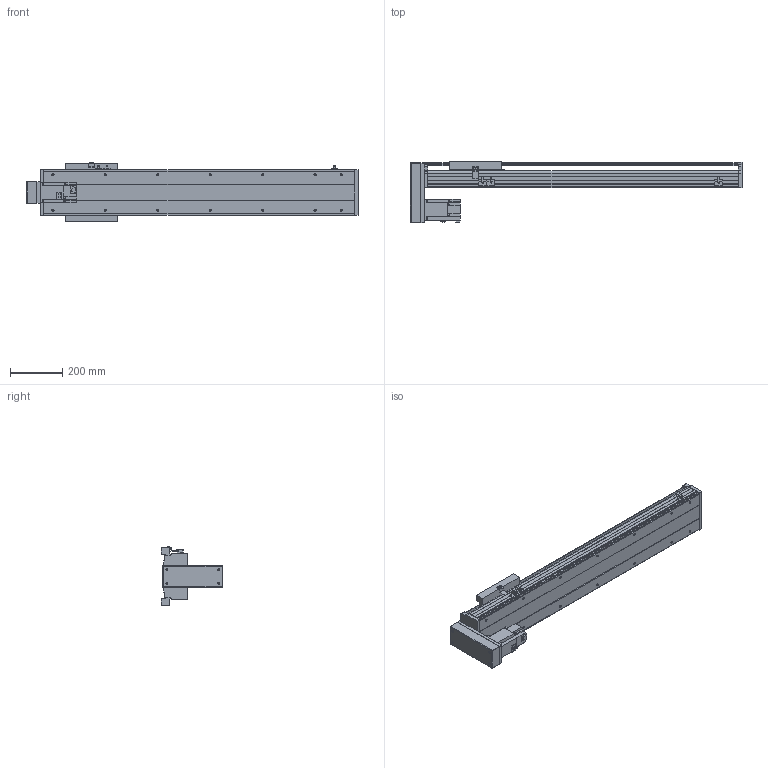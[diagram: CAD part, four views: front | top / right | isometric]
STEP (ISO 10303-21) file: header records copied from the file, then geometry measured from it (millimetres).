
FILE_DESCRIPTION( ( 'STEP AP214' ), '1' );
FILE_NAME( 'x:/temp/worker_27/temp/exporttempdir_6708_426_BjQ87/format_0/PSS200-L10-S850-BM-T75-C1-N(0).stp', '2022-06-06T02:45:01', ( 'License CC BY-ND 4.0' ), ( 'CADENAS' ), ' ', 'PARTsolutions', ' ' );
FILE_SCHEMA( ( 'AUTOMOTIVE_DESIGN { 1 0 10303 214 1 1 1 1 }' ) );
Length unit declared in the file: millimetre
Products named in the file (8): PSS200-L10-S850-BM-T75-C1-N(0); _PSS200-S850-BM-C1-N_body; _PSS200-N_Q; _PSS200-BM-C1-N_sl; _PSS200-N_sensor; _PSS200BM-N_h; _T75-p1; _PSS200-S850-BM-N_S
Assembly tree (9 placements, depth 2):
  PSS200-L10-S850-BM-T75-C1-N(0)
    _PSS200-S850-BM-C1-N_body
    _PSS200-N_Q
    _PSS200-BM-C1-N_sl
    _PSS200-N_sensor  x3
    _PSS200BM-N_h
    _T75-p1
    _PSS200-S850-BM-N_S
Bounding box: 1266.85 x 234.45 x 223.86 mm (x, y, z)
Volume: 8583964.5 mm3; surface area: 2016443 mm2
Topology: 9 solids, 9 shells, 602 faces, 1613 edges, 1070 vertices
Faces by surface type: plane 452, cylinder 124, cone 22, sphere 4
Full cylindrical faces by diameter (mm): 4 x2, 4.5 x4, 6 x7, 6.647 x18, 7.4 x4, 8 x8, 10 x6, 25 x1, 40 x1, 67 x1
Entity records: 21089 total; most frequent: CARTESIAN_POINT 2917, DIRECTION 2767, ORIENTED_EDGE 2734, EDGE_CURVE 1367, LINE 1071, VECTOR 1071, VERTEX_POINT 950, AXIS2_PLACEMENT_3D 848
